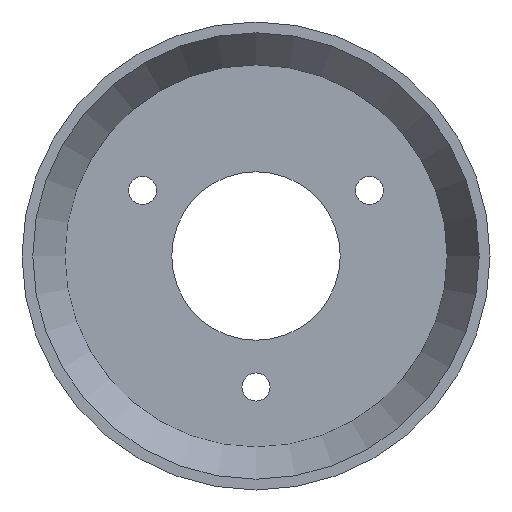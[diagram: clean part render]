
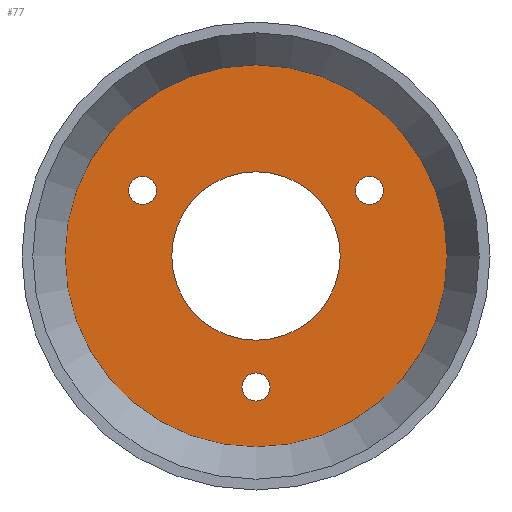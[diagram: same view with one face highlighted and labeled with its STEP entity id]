
A CAD part, front view. The second image highlights one B-rep face of the part: STEP entity #77.
In plain terms, the highlighted planar face has unit normal (0, -1, 0).
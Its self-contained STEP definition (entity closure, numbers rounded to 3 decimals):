
#77 = ADVANCED_FACE( '', ( #91, #92, #93, #94, #95 ), #96, .T. );
#91 = FACE_OUTER_BOUND( '', #124, .T. );
#92 = FACE_BOUND( '', #125, .T. );
#93 = FACE_BOUND( '', #126, .T. );
#94 = FACE_BOUND( '', #127, .T. );
#95 = FACE_BOUND( '', #128, .T. );
#96 = PLANE( '', #129 );
#124 = EDGE_LOOP( '', ( #161 ) );
#125 = EDGE_LOOP( '', ( #162 ) );
#126 = EDGE_LOOP( '', ( #163 ) );
#127 = EDGE_LOOP( '', ( #164 ) );
#128 = EDGE_LOOP( '', ( #165 ) );
#129 = AXIS2_PLACEMENT_3D( '', #166, #167, #168 );
#161 = ORIENTED_EDGE( '', *, *, #203, .T. );
#162 = ORIENTED_EDGE( '', *, *, #205, .T. );
#163 = ORIENTED_EDGE( '', *, *, #206, .T. );
#164 = ORIENTED_EDGE( '', *, *, #207, .T. );
#165 = ORIENTED_EDGE( '', *, *, #208, .F. );
#166 = CARTESIAN_POINT( '', ( 9., 6., 0. ) );
#167 = DIRECTION( '', ( 0., -1., 0. ) );
#168 = DIRECTION( '', ( 0., 0., -1. ) );
#203 = EDGE_CURVE( '', #216, #216, #217, .T. );
#205 = EDGE_CURVE( '', #220, #220, #221, .F. );
#206 = EDGE_CURVE( '', #222, #222, #223, .F. );
#207 = EDGE_CURVE( '', #224, #224, #225, .F. );
#208 = EDGE_CURVE( '', #226, #226, #227, .T. );
#216 = VERTEX_POINT( '', #240 );
#217 = CIRCLE( '', #241, 20.42 );
#220 = VERTEX_POINT( '', #244 );
#221 = CIRCLE( '', #245, 1.5 );
#222 = VERTEX_POINT( '', #246 );
#223 = CIRCLE( '', #247, 1.5 );
#224 = VERTEX_POINT( '', #248 );
#225 = CIRCLE( '', #249, 1.5 );
#226 = VERTEX_POINT( '', #250 );
#227 = CIRCLE( '', #251, 9. );
#240 = CARTESIAN_POINT( '', ( 0., 6., -20.42 ) );
#241 = AXIS2_PLACEMENT_3D( '', #265, #266, #267 );
#244 = CARTESIAN_POINT( '', ( 0., 6., -15.5 ) );
#245 = AXIS2_PLACEMENT_3D( '', #271, #272, #273 );
#246 = CARTESIAN_POINT( '', ( -12.124, 6., 5.5 ) );
#247 = AXIS2_PLACEMENT_3D( '', #274, #275, #276 );
#248 = CARTESIAN_POINT( '', ( 12.124, 6., 5.5 ) );
#249 = AXIS2_PLACEMENT_3D( '', #277, #278, #279 );
#250 = CARTESIAN_POINT( '', ( 0., 6., -9. ) );
#251 = AXIS2_PLACEMENT_3D( '', #280, #281, #282 );
#265 = CARTESIAN_POINT( '', ( 0., 6., 0. ) );
#266 = DIRECTION( '', ( 0., -1., 0. ) );
#267 = DIRECTION( '', ( 0., 0., -1. ) );
#271 = CARTESIAN_POINT( '', ( 0., 6., -14. ) );
#272 = DIRECTION( '', ( 0., -1., 0. ) );
#273 = DIRECTION( '', ( 0., 0., -1. ) );
#274 = CARTESIAN_POINT( '', ( -12.124, 6., 7. ) );
#275 = DIRECTION( '', ( 0., -1., 0. ) );
#276 = DIRECTION( '', ( 0., 0., -1. ) );
#277 = CARTESIAN_POINT( '', ( 12.124, 6., 7. ) );
#278 = DIRECTION( '', ( 0., -1., 0. ) );
#279 = DIRECTION( '', ( 0., 0., -1. ) );
#280 = CARTESIAN_POINT( '', ( 0., 6., 0. ) );
#281 = DIRECTION( '', ( 0., -1., 0. ) );
#282 = DIRECTION( '', ( 0., 0., -1. ) );
